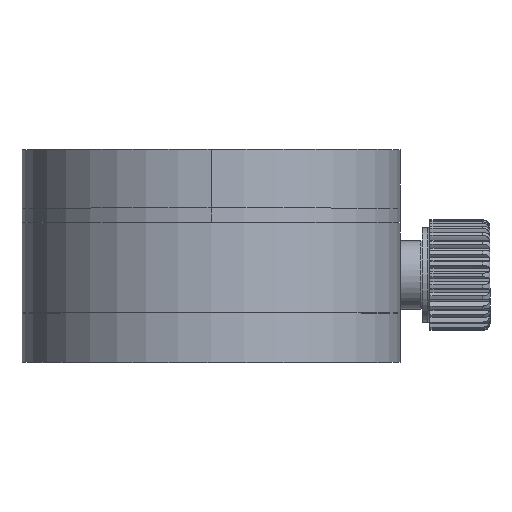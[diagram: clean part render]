
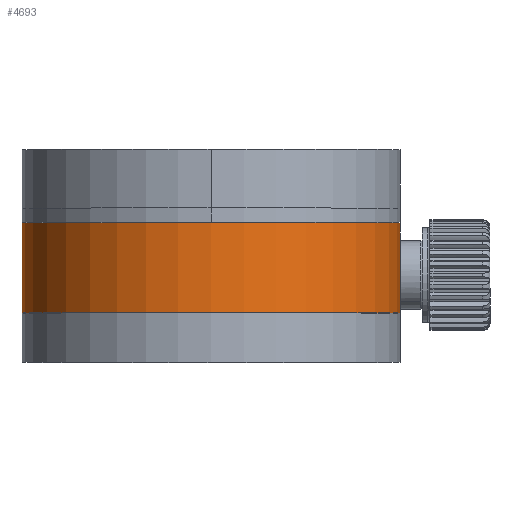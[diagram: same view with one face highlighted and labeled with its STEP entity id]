
A CAD part, top view. The second image highlights one B-rep face of the part: STEP entity #4693.
In plain terms, the highlighted cylindrical face has radius 40 mm (diameter 80 mm), a partial arc.
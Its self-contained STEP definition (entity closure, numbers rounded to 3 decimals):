
#3001 = VERTEX_POINT ( 'NONE', #7094 ) ;
#3003 = VERTEX_POINT ( 'NONE', #7092 ) ;
#3007 = EDGE_CURVE ( 'NONE', #3001, #3008, #7087, .T. ) ;
#3008 = VERTEX_POINT ( 'NONE', #7083 ) ;
#3109 = VERTEX_POINT ( 'NONE', #7228 ) ;
#3159 = EDGE_CURVE ( 'NONE', #3003, #3109, #7483, .T. ) ;
#4508 = EDGE_CURVE ( 'NONE', #3003, #3001, #11049, .T. ) ;
#4678 = EDGE_CURVE ( 'NONE', #3008, #3109, #11672, .T. ) ;
#4690 = ORIENTED_EDGE ( 'NONE', *, *, #3159, .T. ) ;
#4693 = ADVANCED_FACE ( 'NONE', ( #11653 ), #11652, .T. ) ;
#4694 = EDGE_LOOP ( 'NONE', ( #4695, #4696, #4690, #4725 ) ) ;
#4695 = ORIENTED_EDGE ( 'NONE', *, *, #3007, .F. ) ;
#4696 = ORIENTED_EDGE ( 'NONE', *, *, #4508, .F. ) ;
#4725 = ORIENTED_EDGE ( 'NONE', *, *, #4678, .F. ) ;
#7083 = CARTESIAN_POINT ( 'NONE',  ( -40., 11., 0. ) ) ;
#7084 = DIRECTION ( 'NONE',  ( 0., 1., 0. ) ) ;
#7085 = VECTOR ( 'NONE', #7084, 1000. ) ;
#7086 = CARTESIAN_POINT ( 'NONE',  ( -40., -9., 0. ) ) ;
#7087 = LINE ( 'NONE', #7086, #7085 ) ;
#7092 = CARTESIAN_POINT ( 'NONE',  ( 40., -8., 0. ) ) ;
#7094 = CARTESIAN_POINT ( 'NONE',  ( -40., -8., 0. ) ) ;
#7228 = CARTESIAN_POINT ( 'NONE',  ( 40., 11., 0. ) ) ;
#7480 = DIRECTION ( 'NONE',  ( 0., 1., 0. ) ) ;
#7481 = VECTOR ( 'NONE', #7480, 1000. ) ;
#7482 = CARTESIAN_POINT ( 'NONE',  ( 40., -9., 0. ) ) ;
#7483 = LINE ( 'NONE', #7482, #7481 ) ;
#11046 = DIRECTION ( 'NONE',  ( -1., 0., 0. ) ) ;
#11047 = DIRECTION ( 'NONE',  ( 0., -1., 0. ) ) ;
#11048 = AXIS2_PLACEMENT_3D ( 'NONE', #11055, #11047, #11046 ) ;
#11049 = CIRCLE ( 'NONE', #11048, 40. ) ;
#11055 = CARTESIAN_POINT ( 'NONE',  ( 0., -8., 0. ) ) ;
#11647 = DIRECTION ( 'NONE',  ( 1., 0., 0. ) ) ;
#11648 = DIRECTION ( 'NONE',  ( 0., 1., 0. ) ) ;
#11649 = CARTESIAN_POINT ( 'NONE',  ( 0., -9., 0. ) ) ;
#11650 = AXIS2_PLACEMENT_3D ( 'NONE', #11649, #11648, #11647 ) ;
#11652 = CYLINDRICAL_SURFACE ( 'NONE', #11650, 40. ) ;
#11653 = FACE_OUTER_BOUND ( 'NONE', #4694, .T. ) ;
#11668 = DIRECTION ( 'NONE',  ( 1., 0., 0. ) ) ;
#11669 = DIRECTION ( 'NONE',  ( 0., 1., 0. ) ) ;
#11670 = CARTESIAN_POINT ( 'NONE',  ( 0., 11., 0. ) ) ;
#11671 = AXIS2_PLACEMENT_3D ( 'NONE', #11670, #11669, #11668 ) ;
#11672 = CIRCLE ( 'NONE', #11671, 40. ) ;
